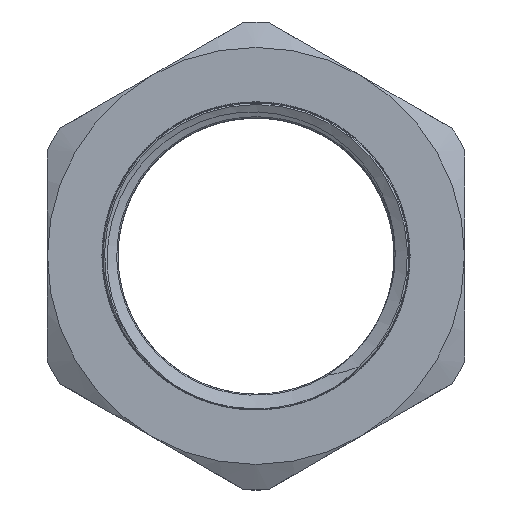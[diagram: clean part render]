
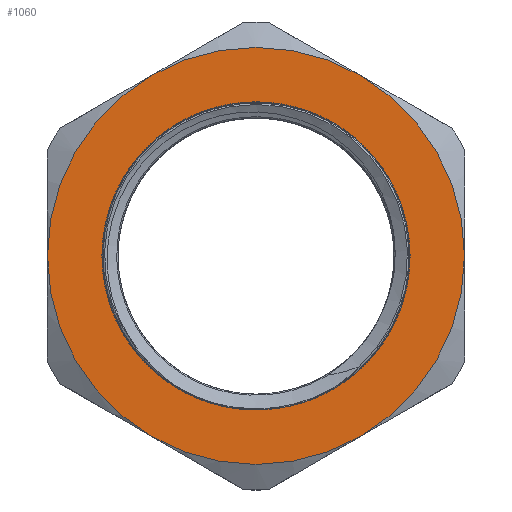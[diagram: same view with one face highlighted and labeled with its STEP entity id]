
A CAD part, top view. The second image highlights one B-rep face of the part: STEP entity #1060.
In plain terms, the highlighted planar face has unit normal (0, 0, 1).
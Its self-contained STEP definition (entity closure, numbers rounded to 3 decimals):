
#104=FACE_BOUND('',#325,.T.);
#118=PLANE('',#1175);
#257=FACE_OUTER_BOUND('',#324,.T.);
#324=EDGE_LOOP('',(#814,#815,#816,#817,#818,#819));
#325=EDGE_LOOP('',(#820,#821));
#370=CIRCLE('',#1124,22.5);
#372=CIRCLE('',#1127,22.5);
#374=CIRCLE('',#1130,22.5);
#376=CIRCLE('',#1133,22.5);
#377=CIRCLE('',#1135,22.5);
#379=CIRCLE('',#1138,22.5);
#392=CIRCLE('',#1166,16.62);
#395=CIRCLE('',#1169,16.62);
#425=VERTEX_POINT('',#1452);
#427=VERTEX_POINT('',#1458);
#429=VERTEX_POINT('',#1465);
#432=VERTEX_POINT('',#1477);
#435=VERTEX_POINT('',#1489);
#438=VERTEX_POINT('',#1504);
#459=VERTEX_POINT('',#1584);
#460=VERTEX_POINT('',#1585);
#536=EDGE_CURVE('',#425,#427,#370,.T.);
#540=EDGE_CURVE('',#429,#425,#372,.T.);
#544=EDGE_CURVE('',#432,#429,#374,.T.);
#548=EDGE_CURVE('',#435,#432,#376,.T.);
#550=EDGE_CURVE('',#438,#435,#377,.T.);
#554=EDGE_CURVE('',#427,#438,#379,.T.);
#587=EDGE_CURVE('',#459,#460,#392,.T.);
#591=EDGE_CURVE('',#460,#459,#395,.T.);
#814=ORIENTED_EDGE('',*,*,#554,.T.);
#815=ORIENTED_EDGE('',*,*,#550,.T.);
#816=ORIENTED_EDGE('',*,*,#548,.T.);
#817=ORIENTED_EDGE('',*,*,#544,.T.);
#818=ORIENTED_EDGE('',*,*,#540,.T.);
#819=ORIENTED_EDGE('',*,*,#536,.T.);
#820=ORIENTED_EDGE('',*,*,#587,.F.);
#821=ORIENTED_EDGE('',*,*,#591,.F.);
#1060=ADVANCED_FACE('',(#257,#104),#118,.T.);
#1124=AXIS2_PLACEMENT_3D('',#1462,#1223,#1224);
#1127=AXIS2_PLACEMENT_3D('',#1474,#1229,#1230);
#1130=AXIS2_PLACEMENT_3D('',#1486,#1235,#1236);
#1133=AXIS2_PLACEMENT_3D('',#1498,#1241,#1242);
#1135=AXIS2_PLACEMENT_3D('',#1505,#1245,#1246);
#1138=AXIS2_PLACEMENT_3D('',#1516,#1251,#1252);
#1166=AXIS2_PLACEMENT_3D('',#1586,#1326,#1327);
#1169=AXIS2_PLACEMENT_3D('',#1592,#1333,#1334);
#1175=AXIS2_PLACEMENT_3D('',#1601,#1346,#1347);
#1223=DIRECTION('center_axis',(0.,0.,1.));
#1224=DIRECTION('ref_axis',(0.,1.,0.));
#1229=DIRECTION('center_axis',(0.,0.,1.));
#1230=DIRECTION('ref_axis',(0.,1.,0.));
#1235=DIRECTION('center_axis',(0.,0.,1.));
#1236=DIRECTION('ref_axis',(0.,1.,0.));
#1241=DIRECTION('center_axis',(0.,0.,1.));
#1242=DIRECTION('ref_axis',(0.,1.,0.));
#1245=DIRECTION('center_axis',(0.,0.,1.));
#1246=DIRECTION('ref_axis',(0.,1.,0.));
#1251=DIRECTION('center_axis',(0.,0.,1.));
#1252=DIRECTION('ref_axis',(0.,1.,0.));
#1326=DIRECTION('center_axis',(0.,0.,1.));
#1327=DIRECTION('ref_axis',(1.,0.,0.));
#1333=DIRECTION('center_axis',(0.,0.,1.));
#1334=DIRECTION('ref_axis',(1.,0.,0.));
#1346=DIRECTION('center_axis',(0.,0.,1.));
#1347=DIRECTION('ref_axis',(1.,0.,0.));
#1452=CARTESIAN_POINT('',(11.25,-19.486,20.5));
#1458=CARTESIAN_POINT('',(22.5,0.,20.5));
#1462=CARTESIAN_POINT('Origin',(0.,0.,20.5));
#1465=CARTESIAN_POINT('',(-11.25,-19.486,20.5));
#1474=CARTESIAN_POINT('Origin',(0.,0.,20.5));
#1477=CARTESIAN_POINT('',(-22.5,0.,20.5));
#1486=CARTESIAN_POINT('Origin',(0.,0.,20.5));
#1489=CARTESIAN_POINT('',(-11.25,19.486,20.5));
#1498=CARTESIAN_POINT('Origin',(0.,0.,20.5));
#1504=CARTESIAN_POINT('',(11.25,19.486,20.5));
#1505=CARTESIAN_POINT('Origin',(0.,0.,20.5));
#1516=CARTESIAN_POINT('Origin',(0.,0.,20.5));
#1584=CARTESIAN_POINT('',(0.,-16.62,20.5));
#1585=CARTESIAN_POINT('',(0.,16.62,20.5));
#1586=CARTESIAN_POINT('Origin',(0.,0.,20.5));
#1592=CARTESIAN_POINT('Origin',(0.,0.,20.5));
#1601=CARTESIAN_POINT('Origin',(0.,-16.62,20.5));
